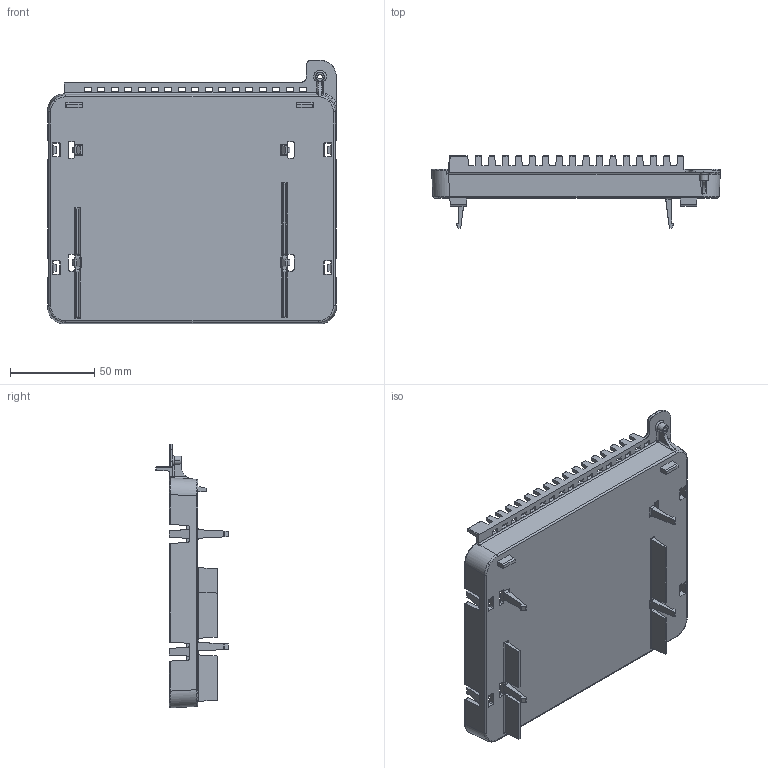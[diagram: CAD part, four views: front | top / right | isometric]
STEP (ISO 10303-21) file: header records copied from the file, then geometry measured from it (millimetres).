
FILE_DESCRIPTION (( 'STEP AP214' ), '1' );
FILE_NAME ('10044V000_Steuerungsgehäuse_Unterteil_Index_4.STEP', '2014-11-13T09:03:36', ( 'Admin' ), ( '' ), 'SwSTEP 2.0', 'SolidWorks 2014', '' );
FILE_SCHEMA (( 'AUTOMOTIVE_DESIGN' ));
Length unit declared in the file: millimetre
Products named in the file (1): 10044V000_Steuerungsgehäuse_Unterteil_Index_4
Bounding box: 171.81 x 43 x 156.82 mm (x, y, z)
Volume: 110045.5 mm3; surface area: 82141.2 mm2
Topology: 1 solids, 1 shells, 929 faces, 2626 edges, 1701 vertices
Faces by surface type: plane 590, cylinder 172, bspline 122, cone 41, sphere 3, torus 1
Entity records: 37189 total; most frequent: CARTESIAN_POINT 12492, ORIENTED_EDGE 5246, DIRECTION 3920, EDGE_CURVE 2623, VECTOR 2014, LINE 2014, VERTEX_POINT 1701, EDGE_LOOP 986
